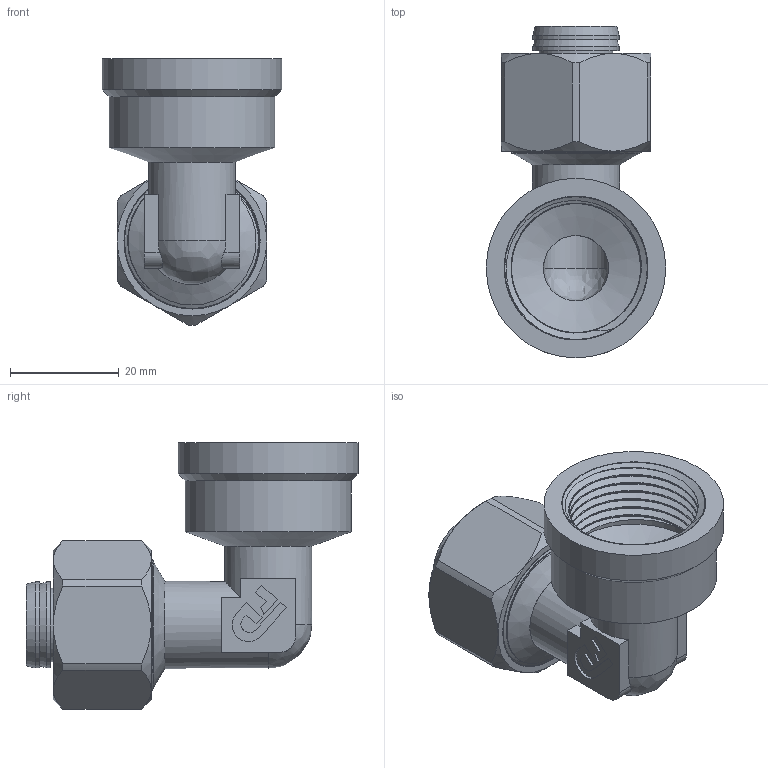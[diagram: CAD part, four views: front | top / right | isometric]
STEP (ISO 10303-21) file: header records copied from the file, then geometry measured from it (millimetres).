
FILE_DESCRIPTION(/* description */ (''),/* implementation_level */ '2;1');
FILE_NAME(/* name */ 'C:\Users\Doom\Desktop\Фадотех\Обжим\RFU14 F 30.03.2020\RFU14 F 30.03.2020.stp',/* time_stamp */ '2022-06-01T16:09:45+03:00',/* author */ ('Doom'),/* organization */ (''),/* preprocessor_version */ 'ST-DEVELOPER v18',/* originating_system */ 'Autodesk Inventor 2020',/* authorisation */ '');
FILE_SCHEMA (('AUTOMOTIVE_DESIGN { 1 0 10303 214 3 1 1 }'));
Length unit declared in the file: millimetre
Products named in the file (5): RFU14 F 30.03.2020; RFU14 F 30.03.2020_1; Olive 20 15.02.2020; FADO MC Socket-20 15.02.2020; FADO MC Nut-20 15.02.2020
Assembly tree (4 placements, depth 2):
  RFU14 F 30.03.2020
    RFU14 F 30.03.2020_1
    Olive 20 15.02.2020
    FADO MC Socket-20 15.02.2020
    FADO MC Nut-20 15.02.2020
Bounding box: 33 x 61 x 49 mm (x, y, z)
Volume: 20100.3 mm3; surface area: 25473 mm2
Topology: 7 solids, 7 shells, 572 faces, 1568 edges, 1049 vertices
Faces by surface type: bspline 268, plane 176, cylinder 95, cone 30, torus 3
Full cylindrical faces by diameter (mm): 11.5 x1, 12 x2, 13.531 x2, 14.5 x1, 15.802 x5, 16 x2, 17.391 x1, 17.5 x1, 18 x1, 20.5 x1, 22.776 x8, 23 x1, 23.517 x2, 23.71 x7, 24.1 x1, 25 x12, 26.4 x2, 30.5 x1, 33 x1
Entity records: 35552 total; most frequent: CARTESIAN_POINT 22660, ORIENTED_EDGE 3116, DIRECTION 1826, EDGE_CURVE 1558, VERTEX_POINT 1045, LINE 630, VECTOR 630, EDGE_LOOP 629
